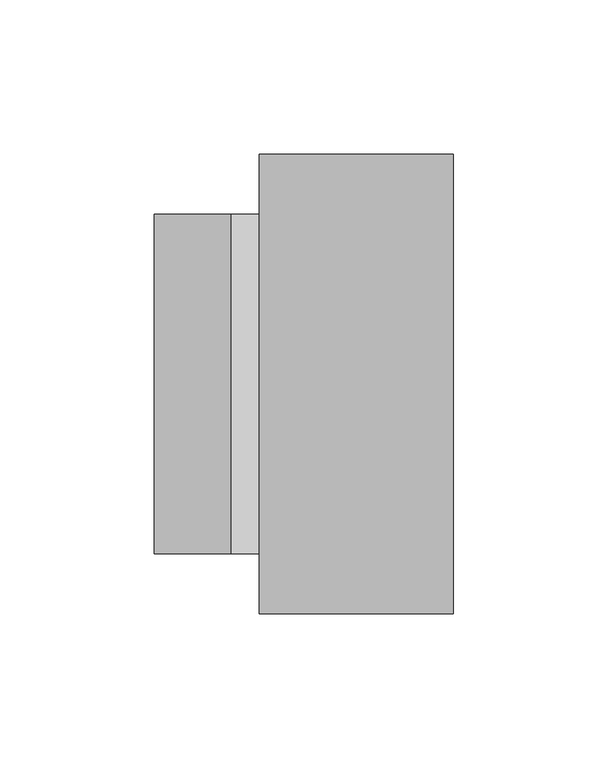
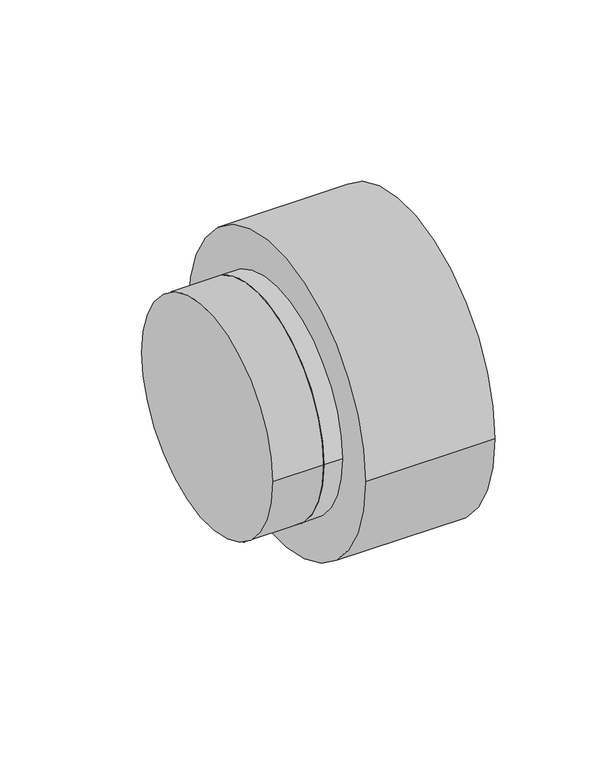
"""IFC4 building model written with IfcOpenShell, lengths in millimetres: pipe fitting geometry, NLRS_52_PIF_UN_PE schroefdraadstuk met afsluitkap_geb : DN30-100 / ø32-110."""

from ifc_helpers import new_model, si_unit, point, frame, origin, origin_2d, place, context, project, spatial, circle_curve, trimmed, segment, composite_curve, outline, extrude, source, transform, mapped, element, save


def pipe_fitting_a08efd00(model_context):
    return source(origin(), model_context, "Body", "SweptSolid", [
        extrude(outline(composite_curve([segment(trimmed(circle_curve(origin_2d(), 55.0), [point((55.0, 0.0))], [point((-55.0, 0.0))], False, "CARTESIAN"), True, "CONTINUOUS"), segment(trimmed(circle_curve(origin_2d(), 55.0), [point((-55.0, 0.0))], [point((55.0, 0.0))], False, "CARTESIAN"), True, "CONTINUOUS")], self_intersect=False)), frame((-9.0, 0.0, 0.0), z_axis=(1.0, 0.0, 0.0), x_axis=(0.0, 1.0, 0.0)), (0.0, 0.0, 1.0), 9.0),
        extrude(outline(composite_curve([segment(trimmed(circle_curve(origin_2d(), 55.0), [point((55.0, 0.0))], [point((-55.0, 0.0))], False, "CARTESIAN"), True, "CONTINUOUS"), segment(trimmed(circle_curve(origin_2d(), 55.0), [point((-55.0, 0.0))], [point((55.0, 0.0))], False, "CARTESIAN"), True, "CONTINUOUS")], self_intersect=False)), frame((-34.0, 0.0, 0.0), z_axis=(1.0, 0.0, 0.0), x_axis=(0.0, 1.0, 0.0)), (0.0, 0.0, 1.0), 25.0),
        extrude(outline(composite_curve([segment(trimmed(circle_curve(origin_2d(), 74.5), [point((74.5, 0.0))], [point((-74.5, 0.0))], False, "CARTESIAN"), True, "CONTINUOUS"), segment(trimmed(circle_curve(origin_2d(), 74.5), [point((-74.5, 0.0))], [point((74.5, 0.0))], False, "CARTESIAN"), True, "CONTINUOUS")], self_intersect=False)), frame((0.0, 0.0, 0.0), z_axis=(1.0, 0.0, 0.0), x_axis=(0.0, 1.0, 0.0)), (0.0, 0.0, 1.0), 63.0),
    ])


if __name__ == "__main__":
    model = new_model("IFC4")
    model_context = context("Model", 3, world=origin())
    ifc_project = project(units=[si_unit("LENGTHUNIT", "METRE", prefix="MILLI")], contexts=[model_context])
    site = spatial("IfcSite", under=ifc_project)
    building = spatial("IfcBuilding", under=site)
    placement = place(None, origin())
    pipe_fitting_shape = pipe_fitting_a08efd00(model_context)
    element("IfcPipeFitting", 1, ObjectType="NLRS_52_PIF_UN_PE schroefdraadstuk met afsluitkap_geb : DN30-100 / ø32-110", at=placement, inside=building, context=model_context, shape_type="MappedRepresentation", body=[
        mapped(pipe_fitting_shape, transform((0.0, 0.0, 0.0), x_axis=(1.0, 0.0, 0.0), y_axis=(0.0, 1.0, 0.0), z_axis=(0.0, 0.0, 1.0))),
    ])
    save(model, "model.ifc")
